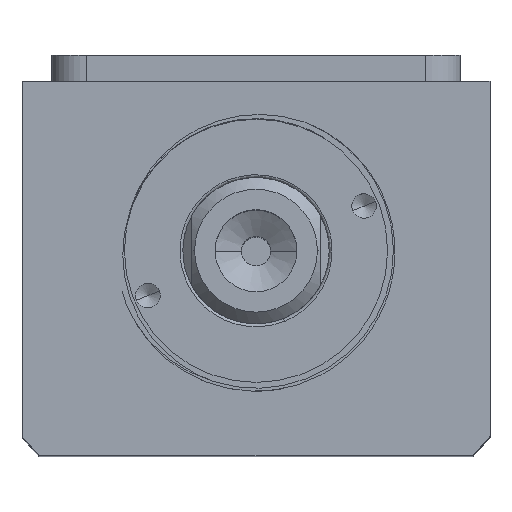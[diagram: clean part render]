
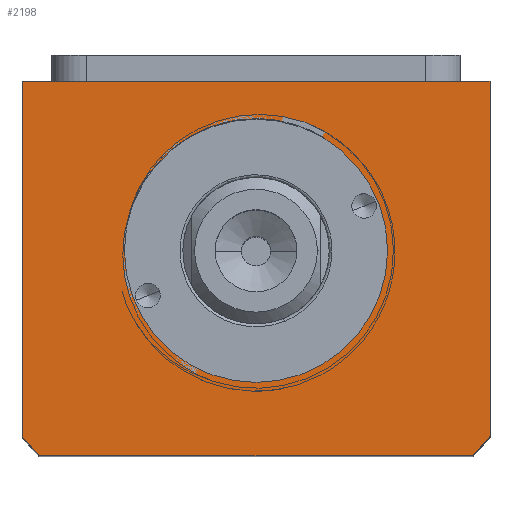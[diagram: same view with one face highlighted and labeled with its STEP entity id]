
A CAD part, top view. The second image highlights one B-rep face of the part: STEP entity #2198.
In plain terms, the highlighted planar face has unit normal (0, 0, 1).
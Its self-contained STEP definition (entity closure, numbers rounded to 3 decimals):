
#31 = LINE ( 'NONE', #10071, #6171 ) ;
#319 = DIRECTION ( 'NONE',  ( 1., 0., 0. ) ) ;
#494 = FACE_OUTER_BOUND ( 'NONE', #4838, .T. ) ;
#602 = AXIS2_PLACEMENT_3D ( 'NONE', #6169, #7785, #3041 ) ;
#725 = CARTESIAN_POINT ( 'NONE',  ( 22.5, 3., 135. ) ) ;
#737 = VERTEX_POINT ( 'NONE', #3152 ) ;
#762 = AXIS2_PLACEMENT_3D ( 'NONE', #7572, #2822, #8381 ) ;
#850 = DIRECTION ( 'NONE',  ( 0., 0., 1. ) ) ;
#1051 = CARTESIAN_POINT ( 'NONE',  ( 40., 32., 135. ) ) ;
#1332 = CIRCLE ( 'NONE', #4323, 22.5 ) ;
#1360 = VERTEX_POINT ( 'NONE', #7638 ) ;
#1454 = CARTESIAN_POINT ( 'NONE',  ( -40., -28.639, 135. ) ) ;
#1580 = CIRCLE ( 'NONE', #8173, 51. ) ;
#1790 = CARTESIAN_POINT ( 'NONE',  ( 37.094, -32., 135. ) ) ;
#1871 = DIRECTION ( 'NONE',  ( 0., 1., 0. ) ) ;
#2198 = ADVANCED_FACE ( 'NONE', ( #4768, #494 ), #6206, .T. ) ;
#2428 = CARTESIAN_POINT ( 'NONE',  ( -40., 32., 135. ) ) ;
#2822 = DIRECTION ( 'NONE',  ( 0., 0., 1. ) ) ;
#3041 = DIRECTION ( 'NONE',  ( 1., 0., 0. ) ) ;
#3152 = CARTESIAN_POINT ( 'NONE',  ( 40., 32., 135. ) ) ;
#3242 = ORIENTED_EDGE ( 'NONE', *, *, #8530, .T. ) ;
#3308 = VECTOR ( 'NONE', #1871, 1000. ) ;
#3626 = VERTEX_POINT ( 'NONE', #6124 ) ;
#3859 = ORIENTED_EDGE ( 'NONE', *, *, #6708, .T. ) ;
#4179 = VECTOR ( 'NONE', #4820, 1000. ) ;
#4215 = DIRECTION ( 'NONE',  ( 0., 0., 1. ) ) ;
#4323 = AXIS2_PLACEMENT_3D ( 'NONE', #8968, #4215, #9754 ) ;
#4619 = ORIENTED_EDGE ( 'NONE', *, *, #7570, .T. ) ;
#4768 = FACE_BOUND ( 'NONE', #9538, .T. ) ;
#4820 = DIRECTION ( 'NONE',  ( 0., -1., 0. ) ) ;
#4838 = EDGE_LOOP ( 'NONE', ( #9944, #3859, #8317, #4619, #3242, #9828 ) ) ;
#4915 = CARTESIAN_POINT ( 'NONE',  ( -40., 32., 135. ) ) ;
#5141 = DIRECTION ( 'NONE',  ( 0., 0., 1. ) ) ;
#5224 = ORIENTED_EDGE ( 'NONE', *, *, #8664, .F. ) ;
#5409 = DIRECTION ( 'NONE',  ( 1., 0., 0. ) ) ;
#5660 = CARTESIAN_POINT ( 'NONE',  ( 0., 3., 135. ) ) ;
#5790 = EDGE_CURVE ( 'NONE', #737, #9469, #6686, .T. ) ;
#5858 = VERTEX_POINT ( 'NONE', #1790 ) ;
#5861 = EDGE_CURVE ( 'NONE', #9467, #9978, #1332, .T. ) ;
#6124 = CARTESIAN_POINT ( 'NONE',  ( 40., -28.639, 135. ) ) ;
#6169 = CARTESIAN_POINT ( 'NONE',  ( 0., 0., 135. ) ) ;
#6171 = VECTOR ( 'NONE', #5409, 1000. ) ;
#6206 = PLANE ( 'NONE',  #602 ) ;
#6323 = CARTESIAN_POINT ( 'NONE',  ( -40., 32., 135. ) ) ;
#6442 = DIRECTION ( 'NONE',  ( 1., 0., 0. ) ) ;
#6686 = LINE ( 'NONE', #4915, #9061 ) ;
#6708 = EDGE_CURVE ( 'NONE', #7865, #1360, #1580, .T. ) ;
#7274 = CIRCLE ( 'NONE', #762, 22.5 ) ;
#7521 = LINE ( 'NONE', #1051, #3308 ) ;
#7570 = EDGE_CURVE ( 'NONE', #5858, #3626, #9902, .T. ) ;
#7572 = CARTESIAN_POINT ( 'NONE',  ( 0., 3., 135. ) ) ;
#7638 = CARTESIAN_POINT ( 'NONE',  ( -37.094, -32., 135. ) ) ;
#7773 = AXIS2_PLACEMENT_3D ( 'NONE', #9876, #5141, #319 ) ;
#7785 = DIRECTION ( 'NONE',  ( 0., 0., 1. ) ) ;
#7865 = VERTEX_POINT ( 'NONE', #1454 ) ;
#8053 = ORIENTED_EDGE ( 'NONE', *, *, #5861, .F. ) ;
#8173 = AXIS2_PLACEMENT_3D ( 'NONE', #5660, #850, #6442 ) ;
#8317 = ORIENTED_EDGE ( 'NONE', *, *, #9389, .T. ) ;
#8381 = DIRECTION ( 'NONE',  ( 1., 0., 0. ) ) ;
#8388 = LINE ( 'NONE', #2428, #4179 ) ;
#8530 = EDGE_CURVE ( 'NONE', #3626, #737, #7521, .T. ) ;
#8664 = EDGE_CURVE ( 'NONE', #9978, #9467, #7274, .T. ) ;
#8907 = CARTESIAN_POINT ( 'NONE',  ( -22.5, 3., 135. ) ) ;
#8968 = CARTESIAN_POINT ( 'NONE',  ( 0., 3., 135. ) ) ;
#9061 = VECTOR ( 'NONE', #9651, 1000. ) ;
#9389 = EDGE_CURVE ( 'NONE', #1360, #5858, #31, .T. ) ;
#9467 = VERTEX_POINT ( 'NONE', #725 ) ;
#9469 = VERTEX_POINT ( 'NONE', #6323 ) ;
#9538 = EDGE_LOOP ( 'NONE', ( #8053, #5224 ) ) ;
#9651 = DIRECTION ( 'NONE',  ( -1., 0., 0. ) ) ;
#9754 = DIRECTION ( 'NONE',  ( 1., 0., 0. ) ) ;
#9828 = ORIENTED_EDGE ( 'NONE', *, *, #5790, .T. ) ;
#9837 = EDGE_CURVE ( 'NONE', #9469, #7865, #8388, .T. ) ;
#9876 = CARTESIAN_POINT ( 'NONE',  ( 0., 3., 135. ) ) ;
#9902 = CIRCLE ( 'NONE', #7773, 51. ) ;
#9944 = ORIENTED_EDGE ( 'NONE', *, *, #9837, .T. ) ;
#9978 = VERTEX_POINT ( 'NONE', #8907 ) ;
#10071 = CARTESIAN_POINT ( 'NONE',  ( -40., -32., 135. ) ) ;
